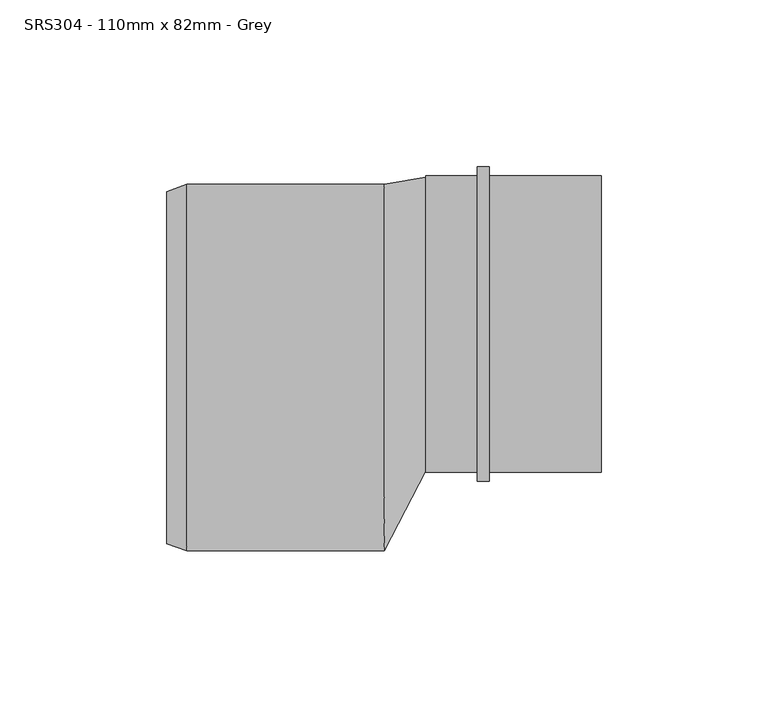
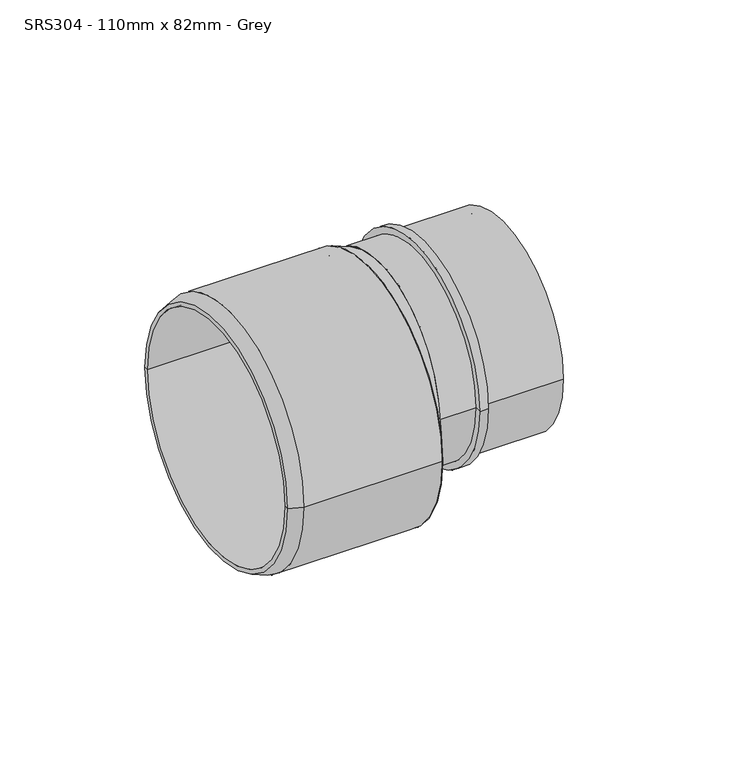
"""IFC4 building model written with IfcOpenShell, lengths in millimetres: pipe fitting geometry, MarleyPlumbingAndDrainage_PipeFitting_LevelInvertReducer_SRS304 : SRS304 - 110mm x 82mm - Grey."""

from ifc_helpers import new_model, si_unit, frame, origin, place, context, project, spatial, polyline, circle_curve, source, transform, mapped, element, save
from ifc_brep_helpers import plane_surface, cylinder_surface, revolved_surface, spline_surface, advanced_brep


def srs304_110mm_x_82mm_grey_6781d9f6(model_context):
    return source(origin(), model_context, "Body", "AdvancedBrep", [
        advanced_brep(
        [(13.2832119, -47.2406325, 0.0), (13.2832119, 47.2406325, 0.0), (16.7832119, 47.2406325, 0.0), (16.7832119, -47.2406325, 0.0), (13.2832119, -44.4406325, 0.0), (13.2832119, 44.4406325, 0.0), (-2.2950934, -44.4406325, 0.0), (-2.2950934, 44.4406325, 0.0), (50.4832119, -41.0, 0.0), (50.4832119, 41.0, 0.0), (-2.2950934, 41.0, 0.0), (-2.2950934, -41.0, 0.0), (50.4832119, -44.4406325, 0.0), (50.4832119, 44.4406325, 0.0), (16.7832119, -44.4406325, 0.0), (16.7832119, 44.4406325, 0.0), (-14.7667881, -68.1, 0.0), (-14.7667881, 41.9, 0.0), (-2.2950934, 44.0, 0.0), (-2.2950934, -44.0, 0.0)],
        [
            (0, 1, circle_curve(frame((13.2832119, 0.0, 0.0), z_axis=(1.0, 0.0, 0.0), x_axis=(0.0, 1.0, 0.0)), 47.2406325)),
            (1, 2),
            (2, 3, circle_curve(frame((16.7832119, 0.0, 0.0), z_axis=(-1.0, 0.0, 0.0), x_axis=(0.0, 1.0, 0.0)), 47.2406325)),
            (3, 0),
            (1, 0, circle_curve(frame((13.2832119, 0.0, 0.0), z_axis=(1.0, 0.0, 0.0), x_axis=(0.0, 1.0, 0.0)), 47.2406325)),
            (3, 2, circle_curve(frame((16.7832119, 0.0, 0.0), z_axis=(-1.0, 0.0, 0.0), x_axis=(0.0, 1.0, 0.0)), 47.2406325)),
            (0, 4),
            (4, 5, circle_curve(frame((13.2832119, 0.0, 0.0), z_axis=(1.0, 0.0, 0.0), x_axis=(0.0, 1.0, 0.0)), 44.4406325)),
            (5, 1),
            (5, 4, circle_curve(frame((13.2832119, 0.0, 0.0), z_axis=(1.0, 0.0, 0.0), x_axis=(0.0, 1.0, 0.0)), 44.4406325)),
            (4, 6),
            (6, 7, circle_curve(frame((-2.2950934, 0.0, 0.0), z_axis=(1.0, 0.0, 0.0), x_axis=(0.0, 1.0, 0.0)), 44.4406325)),
            (7, 5),
            (7, 6, circle_curve(frame((-2.2950934, 0.0, 0.0), z_axis=(1.0, 0.0, 0.0), x_axis=(0.0, 1.0, 0.0)), 44.4406325)),
            (8, 9, circle_curve(frame((50.4832119, 0.0, 0.0), z_axis=(1.0, 0.0, 0.0), x_axis=(0.0, 1.0, 0.0)), 41.0)),
            (9, 10),
            (10, 11, circle_curve(frame((-2.2950934, 0.0, 0.0), z_axis=(-1.0, 0.0, 0.0), x_axis=(0.0, 1.0, 0.0)), 41.0)),
            (11, 8),
            (9, 8, circle_curve(frame((50.4832119, 0.0, 0.0), z_axis=(1.0, 0.0, 0.0), x_axis=(0.0, 1.0, 0.0)), 41.0)),
            (11, 10, circle_curve(frame((-2.2950934, 0.0, 0.0), z_axis=(-1.0, 0.0, 0.0), x_axis=(0.0, 1.0, 0.0)), 41.0)),
            (8, 12),
            (12, 13, circle_curve(frame((50.4832119, 0.0, 0.0), z_axis=(1.0, 0.0, 0.0), x_axis=(0.0, 1.0, 0.0)), 44.4406325)),
            (13, 9),
            (13, 12, circle_curve(frame((50.4832119, 0.0, 0.0), z_axis=(1.0, 0.0, 0.0), x_axis=(0.0, 1.0, 0.0)), 44.4406325)),
            (12, 14),
            (14, 15, circle_curve(frame((16.7832119, 0.0, 0.0), z_axis=(1.0, 0.0, 0.0), x_axis=(0.0, 1.0, 0.0)), 44.4406325)),
            (15, 13),
            (15, 14, circle_curve(frame((16.7832119, 0.0, 0.0), z_axis=(1.0, 0.0, 0.0), x_axis=(0.0, 1.0, 0.0)), 44.4406325)),
            (2, 15),
            (14, 3),
            (16, 17, circle_curve(frame((-14.7667881, -13.1, 0.0), z_axis=(-1.0, 0.0, 0.0), x_axis=(0.0, 1.0, 0.0)), 55.0)),
            (17, 16, circle_curve(frame((-14.7667881, -13.1, 0.0), z_axis=(-1.0, 0.0, 0.0), x_axis=(0.0, 1.0, 0.0)), 55.0)),
            (17, 18),
            (18, 19, circle_curve(frame((-2.2950934, 0.0, 0.0), z_axis=(-1.0, 0.0, 0.0), x_axis=(0.0, 1.0, 0.0)), 44.0)),
            (19, 16),
            (19, 18, circle_curve(frame((-2.2950934, 0.0, 0.0), z_axis=(-1.0, 0.0, 0.0), x_axis=(0.0, 1.0, 0.0)), 44.0)),
            (6, 19),
            (18, 7),
        ],
        [
            cylinder_surface(frame((-527.815087, 0.0, 0.0), z_axis=(-1.0, 0.0, 0.0), x_axis=(0.0, 1.0, 0.0)), 47.2406325),
            plane_surface(frame((13.2832119, 0.0, 0.0), z_axis=(-1.0, 0.0, 0.0), x_axis=(0.0, 1.0, 0.0))),
            cylinder_surface(frame((-527.815087, 0.0, 0.0), z_axis=(-1.0, 0.0, 0.0), x_axis=(0.0, 1.0, 0.0)), 44.4406325),
            revolved_surface(polyline([(-2.2950934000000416, 41.0, 0.0), (50.483211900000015, 41.0, 0.0)]), (-527.815087, 0.0, 0.0), (-1.0, 0.0, 0.0)),
            plane_surface(frame((50.4832119, 0.0, 0.0), z_axis=(1.0, 0.0, 0.0), x_axis=(0.0, 1.0, 0.0))),
            plane_surface(frame((16.7832119, 0.0, 0.0), z_axis=(1.0, 0.0, 0.0), x_axis=(0.0, 1.0, 0.0))),
            plane_surface(frame((-14.7667881, -13.1, 0.0), z_axis=(-1.0, 0.0, 0.0), x_axis=(0.0, 0.0, -1.0))),
            plane_surface(frame((-2.2950934, 0.0, 0.0), z_axis=(1.0, 0.0, 0.0), x_axis=(0.0, 0.0, -1.0))),
            spline_surface(2, 1, [[(-2.2950934, 44.0, 0.0), (-14.7667881, 41.9, 0.0)], [(-2.2950934, 44.0, -44.0), (-14.7667881, 41.9, -55.0)], [(-2.2950934, 0.0, -44.0), (-14.7667881, -13.1, -55.0)], [(-2.2950934, -44.0, -44.00000000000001), (-14.7667881, -68.1, -55.000000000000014)], [(-2.2950934, -44.0, 0.0), (-14.7667881, -68.1, 0.0)]], [3, 2, 3], [2, 2], [0.0, 1.0, 2.0], [0.0, 1.0], weights=[[1.0, 1.0], [0.7071067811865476, 0.7071067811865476], [1.0, 1.0], [0.7071067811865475, 0.7071067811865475], [1.0, 1.0]]),
            spline_surface(2, 1, [[(-2.2950934, -44.0, 0.0), (-14.7667881, -68.1, 0.0)], [(-2.2950934, -44.0, 44.0), (-14.7667881, -68.1, 54.99999999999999)], [(-2.2950934, 0.0, 44.0), (-14.7667881, -13.1, 54.99999999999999)], [(-2.2950934, 44.0, 43.99999999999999), (-14.7667881, 41.89999999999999, 54.99999999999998)], [(-2.2950934, 44.0, 0.0), (-14.7667881, 41.9, 0.0)]], [3, 2, 3], [2, 2], [0.0, 1.0, 2.0], [0.0, 1.0], weights=[[1.0, 1.0], [0.7071067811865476, 0.7071067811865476], [1.0, 1.0], [0.7071067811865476, 0.7071067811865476], [1.0, 1.0]]),
            plane_surface(frame((-2.2950934, 0.0, 0.0), z_axis=(-1.0, 0.0, 0.0), x_axis=(0.0, 1.0, 0.0))),
        ],
        [
            (0, [[1, 2, 3, 4]]),
            (0, [[-2, 5, -4, 6]]),
            (1, [[-1, 7, 8, 9]]),
            (1, [[-5, -9, 10, -7]]),
            (2, [[-8, 11, 12, 13]]),
            (2, [[-10, -13, 14, -11]]),
            (3, [[15, 16, 17, 18]]),
            (3, [[-16, 19, -18, 20]]),
            (4, [[-15, 21, 22, 23]]),
            (4, [[-19, -23, 24, -21]]),
            (2, [[-22, 25, 26, 27]]),
            (2, [[-24, -27, 28, -25]]),
            (5, [[-3, 29, -26, 30]]),
            (5, [[-6, -30, -28, -29]]),
            (6, [[31, 32]]),
            (7, [[-17, -20]]),
            (8, [[-32, 33, 34, 35]]),
            (9, [[-31, -35, 36, -33]]),
            (10, [[-12, 37, -34, 38]]),
            (10, [[-14, -38, -36, -37]]),
        ],
    ),
        advanced_brep(
        [(-80.0167881, -64.1601023, 0.0), (-80.0167881, 37.9601023, 0.0), (-80.0167881, 39.7161786, 0.0), (-80.0167881, -65.9161786, 0.0), (-14.7667881, -64.1601023, 0.0), (-14.7667881, 37.9601023, 0.0), (-14.7667881, -68.1, 0.0), (-14.7667881, 41.9, 0.0), (-74.0167881, -68.1, 0.0), (-74.0167881, 41.9, 0.0)],
        [
            (0, 1, circle_curve(frame((-80.0167881, -13.1, 0.0), z_axis=(1.0, 0.0, 0.0), x_axis=(0.0, 1.0, 0.0)), 51.0601023)),
            (1, 2),
            (2, 3, circle_curve(frame((-80.0167881, -13.1, 0.0), z_axis=(-1.0, 0.0, 0.0), x_axis=(0.0, 1.0, 0.0)), 52.8161786)),
            (3, 0),
            (1, 0, circle_curve(frame((-80.0167881, -13.1, 0.0), z_axis=(1.0, 0.0, 0.0), x_axis=(0.0, 1.0, 0.0)), 51.0601023)),
            (3, 2, circle_curve(frame((-80.0167881, -13.1, 0.0), z_axis=(-1.0, 0.0, 0.0), x_axis=(0.0, 1.0, 0.0)), 52.8161786)),
            (4, 5, circle_curve(frame((-14.7667881, -13.1, 0.0), z_axis=(1.0, 0.0, 0.0), x_axis=(0.0, 1.0, 0.0)), 51.0601023)),
            (5, 1),
            (0, 4),
            (5, 4, circle_curve(frame((-14.7667881, -13.1, 0.0), z_axis=(1.0, 0.0, 0.0), x_axis=(0.0, 1.0, 0.0)), 51.0601023)),
            (6, 7, circle_curve(frame((-14.7667881, -13.1, 0.0), z_axis=(1.0, 0.0, 0.0), x_axis=(0.0, 1.0, 0.0)), 55.0)),
            (7, 5),
            (4, 6),
            (7, 6, circle_curve(frame((-14.7667881, -13.1, 0.0), z_axis=(1.0, 0.0, 0.0), x_axis=(0.0, 1.0, 0.0)), 55.0)),
            (8, 9, circle_curve(frame((-74.0167881, -13.1, 0.0), z_axis=(1.0, 0.0, 0.0), x_axis=(0.0, 1.0, 0.0)), 55.0)),
            (9, 7),
            (6, 8),
            (9, 8, circle_curve(frame((-74.0167881, -13.1, 0.0), z_axis=(1.0, 0.0, 0.0), x_axis=(0.0, 1.0, 0.0)), 55.0)),
            (2, 9),
            (8, 3),
        ],
        [
            plane_surface(frame((-80.0167881, -13.1, 0.0), z_axis=(-1.0, 0.0, 0.0), x_axis=(0.0, 1.0, 0.0))),
            revolved_surface(polyline([(-80.01678810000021, 37.960102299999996, 0.0), (-14.766788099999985, 37.960102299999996, 0.0)]), (2000.0585938, -13.1, 0.0), (-1.0, 0.0, 0.0)),
            plane_surface(frame((-14.7667881, -13.1, 0.0), z_axis=(1.0, 0.0, 0.0), x_axis=(0.0, 1.0, 0.0))),
            cylinder_surface(frame((2000.0585938, -13.1, 0.0), z_axis=(-1.0, 0.0, 0.0), x_axis=(0.0, 1.0, 0.0)), 55.0),
            revolved_surface(polyline([(-74.0167881, 41.9, 0.0), (-80.0167881, 39.7161786, 0.0)]), (2000.0585938, -13.1, 0.0), (-1.0, 0.0, 0.0)),
        ],
        [
            (0, [[1, 2, 3, 4]]),
            (0, [[5, -4, 6, -2]]),
            (1, [[7, 8, -1, 9]]),
            (1, [[10, -9, -5, -8]]),
            (2, [[11, 12, -7, 13]]),
            (2, [[14, -13, -10, -12]]),
            (3, [[15, 16, -11, 17]]),
            (3, [[18, -17, -14, -16]]),
            (4, [[-3, 19, -15, 20]]),
            (4, [[-6, -20, -18, -19]]),
        ],
    ),
    ])


if __name__ == "__main__":
    model = new_model("IFC4")
    model_context = context("Model", 3, world=origin())
    ifc_project = project(units=[si_unit("LENGTHUNIT", "METRE", prefix="MILLI")], contexts=[model_context])
    site = spatial("IfcSite", under=ifc_project)
    building = spatial("IfcBuilding", under=site)
    placement = place(None, origin())
    srs304_110mm_x_82mm_grey_shape = srs304_110mm_x_82mm_grey_6781d9f6(model_context)
    element("IfcPipeFitting", 1, ObjectType="MarleyPlumbingAndDrainage_PipeFitting_LevelInvertReducer_SRS304 : SRS304 - 110mm x 82mm - Grey", at=placement, inside=building, context=model_context, shape_type="MappedRepresentation", body=[
        mapped(srs304_110mm_x_82mm_grey_shape, transform((0.0, 0.0, 0.0), x_axis=(1.0, 0.0, 0.0), y_axis=(0.0, 1.0, 0.0), z_axis=(0.0, 0.0, 1.0))),
    ])
    save(model, "model.ifc")
